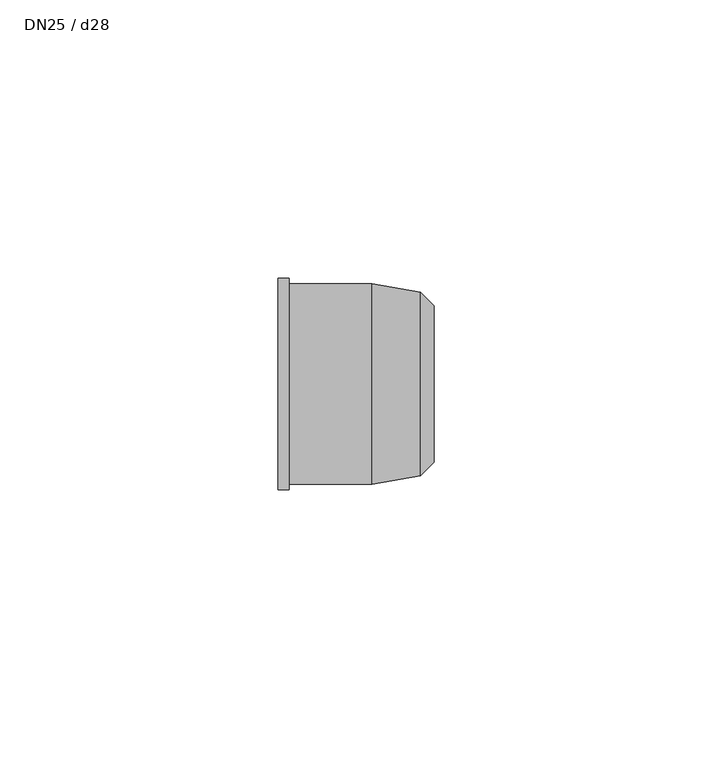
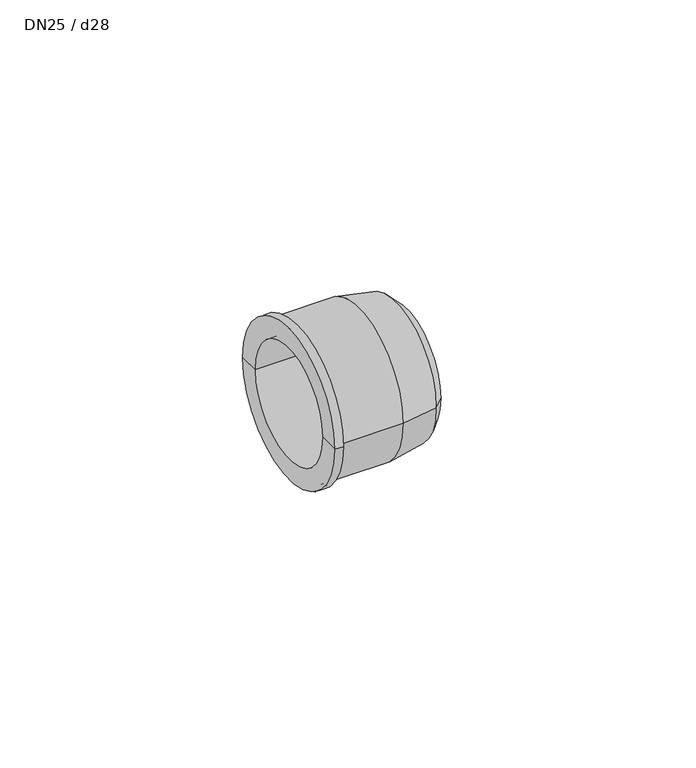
"""IFC4 building model written with IfcOpenShell, lengths in millimetres: pipe fitting geometry, NLRS_50_PIF_UN_kap op verdeler met steekaansluiting, permanent_geb : DN25 / d28."""

from ifc_helpers import new_model, si_unit, frame, origin, place, context, project, spatial, polyline, circle_curve, source, transform, mapped, element, save
from ifc_brep_helpers import plane_surface, cylinder_surface, revolved_surface, advanced_brep


def dn25_d28_51036117(model_context):
    return source(origin(), model_context, "Body", "AdvancedBrep", [
        advanced_brep(
        [(-28.0, -19.0, 0.0), (-28.0, 19.0, 0.0), (-26.0, 19.0, 0.0), (-26.0, -19.0, 0.0), (-28.0, -14.0, 0.0), (-28.0, 14.0, 0.0), (0.0, -14.0824388, 0.0), (0.0, 14.0824388, 0.0), (0.0, 0.0, 0.0), (-2.3704616, -16.4529005, 0.0), (-2.3704616, 16.4529005, 0.0), (-11.1444991, -18.0, 0.0), (-11.1444991, 18.0, 0.0), (-26.0, -18.0, 0.0), (-26.0, 18.0, 0.0), (-3.0, -14.0, 0.0), (-3.0, 14.0, 0.0), (-3.0, 0.0, 0.0)],
        [
            (0, 1, circle_curve(frame((-28.0, 0.0, 0.0), z_axis=(1.0, 0.0, 0.0), x_axis=(0.0, 1.0, 0.0)), 19.0)),
            (1, 2),
            (2, 3, circle_curve(frame((-26.0, 0.0, 0.0), z_axis=(-1.0, 0.0, 0.0), x_axis=(0.0, 1.0, 0.0)), 19.0)),
            (3, 0),
            (1, 0, circle_curve(frame((-28.0, 0.0, 0.0), z_axis=(1.0, 0.0, 0.0), x_axis=(0.0, 1.0, 0.0)), 19.0)),
            (3, 2, circle_curve(frame((-26.0, 0.0, 0.0), z_axis=(-1.0, 0.0, 0.0), x_axis=(0.0, 1.0, 0.0)), 19.0)),
            (4, 5, circle_curve(frame((-28.0, 0.0, 0.0), z_axis=(1.0, 0.0, 0.0), x_axis=(0.0, 1.0, 0.0)), 14.0)),
            (5, 1),
            (0, 4),
            (5, 4, circle_curve(frame((-28.0, 0.0, 0.0), z_axis=(1.0, 0.0, 0.0), x_axis=(0.0, 1.0, 0.0)), 14.0)),
            (6, 7, circle_curve(frame((0.0, 0.0, 0.0), z_axis=(1.0, 0.0, 0.0), x_axis=(0.0, 1.0, 0.0)), 14.0824388)),
            (7, 8),
            (8, 6),
            (7, 6, circle_curve(frame((0.0, 0.0, 0.0), z_axis=(1.0, 0.0, 0.0), x_axis=(0.0, 1.0, 0.0)), 14.0824388)),
            (9, 10, circle_curve(frame((-2.3704616, 0.0, 0.0), z_axis=(1.0, 0.0, 0.0), x_axis=(0.0, 1.0, 0.0)), 16.4529005)),
            (10, 7),
            (6, 9),
            (10, 9, circle_curve(frame((-2.3704616, 0.0, 0.0), z_axis=(1.0, 0.0, 0.0), x_axis=(0.0, 1.0, 0.0)), 16.4529005)),
            (11, 12, circle_curve(frame((-11.1444991, 0.0, 0.0), z_axis=(1.0, 0.0, 0.0), x_axis=(0.0, 1.0, 0.0)), 18.0)),
            (12, 10),
            (9, 11),
            (12, 11, circle_curve(frame((-11.1444991, 0.0, 0.0), z_axis=(1.0, 0.0, 0.0), x_axis=(0.0, 1.0, 0.0)), 18.0)),
            (13, 14, circle_curve(frame((-26.0, 0.0, 0.0), z_axis=(1.0, 0.0, 0.0), x_axis=(0.0, 1.0, 0.0)), 18.0)),
            (14, 12),
            (11, 13),
            (14, 13, circle_curve(frame((-26.0, 0.0, 0.0), z_axis=(1.0, 0.0, 0.0), x_axis=(0.0, 1.0, 0.0)), 18.0)),
            (2, 14),
            (13, 3),
            (15, 16, circle_curve(frame((-3.0, 0.0, 0.0), z_axis=(1.0, 0.0, 0.0), x_axis=(0.0, 1.0, 0.0)), 14.0)),
            (16, 5),
            (4, 15),
            (16, 15, circle_curve(frame((-3.0, 0.0, 0.0), z_axis=(1.0, 0.0, 0.0), x_axis=(0.0, 1.0, 0.0)), 14.0)),
            (17, 16),
            (15, 17),
        ],
        [
            cylinder_surface(frame((11.753022, 0.0, 0.0), z_axis=(-1.0, 0.0, 0.0), x_axis=(0.0, 1.0, 0.0)), 19.0),
            plane_surface(frame((-28.0, 0.0, 0.0), z_axis=(-1.0, 0.0, 0.0), x_axis=(0.0, 1.0, 0.0))),
            plane_surface(frame((0.0, 0.0, 0.0), z_axis=(1.0, 0.0, 0.0), x_axis=(0.0, 1.0, 0.0))),
            revolved_surface(polyline([(0.0, 14.0824388, 0.0), (-2.3704616, 16.4529005, 0.0)]), (11.753022, 0.0, 0.0), (-1.0, 0.0, 0.0)),
            revolved_surface(polyline([(-2.3704616, 16.4529005, 0.0), (-11.1444991, 18.0, 0.0)]), (11.753022, 0.0, 0.0), (-1.0, 0.0, 0.0)),
            cylinder_surface(frame((11.753022, 0.0, 0.0), z_axis=(-1.0, 0.0, 0.0), x_axis=(0.0, 1.0, 0.0)), 18.0),
            plane_surface(frame((-26.0, 0.0, 0.0), z_axis=(1.0, 0.0, 0.0), x_axis=(0.0, 1.0, 0.0))),
            revolved_surface(polyline([(-28.0, 14.0, 0.0), (-3.0, 14.0, 0.0)]), (11.753022, 0.0, 0.0), (-1.0, 0.0, 0.0)),
            plane_surface(frame((-3.0, 0.0, 0.0), z_axis=(-1.0, 0.0, 0.0), x_axis=(0.0, 1.0, 0.0))),
        ],
        [
            (0, [[1, 2, 3, 4]]),
            (0, [[5, -4, 6, -2]]),
            (1, [[7, 8, -1, 9]]),
            (1, [[10, -9, -5, -8]]),
            (2, [[11, 12, 13]]),
            (2, [[14, -13, -12]]),
            (3, [[15, 16, -11, 17]]),
            (3, [[18, -17, -14, -16]]),
            (4, [[19, 20, -15, 21]]),
            (4, [[22, -21, -18, -20]]),
            (5, [[23, 24, -19, 25]]),
            (5, [[26, -25, -22, -24]]),
            (6, [[-3, 27, -23, 28]]),
            (6, [[-6, -28, -26, -27]]),
            (7, [[29, 30, -7, 31]]),
            (7, [[32, -31, -10, -30]]),
            (8, [[33, -29, 34]]),
            (8, [[-34, -32, -33]]),
        ],
    ),
    ])


if __name__ == "__main__":
    model = new_model("IFC4")
    model_context = context("Model", 3, world=origin())
    ifc_project = project(units=[si_unit("LENGTHUNIT", "METRE", prefix="MILLI")], contexts=[model_context])
    site = spatial("IfcSite", under=ifc_project)
    building = spatial("IfcBuilding", under=site)
    placement = place(None, origin())
    dn25_d28_shape = dn25_d28_51036117(model_context)
    element("IfcPipeFitting", 1, ObjectType="NLRS_50_PIF_UN_kap op verdeler met steekaansluiting, permanent_geb : DN25 / d28", at=placement, inside=building, context=model_context, shape_type="MappedRepresentation", body=[
        mapped(dn25_d28_shape, transform((0.0, 0.0, 0.0), x_axis=(1.0, 0.0, 0.0), y_axis=(0.0, 1.0, 0.0), z_axis=(0.0, 0.0, 1.0))),
    ])
    save(model, "model.ifc")
